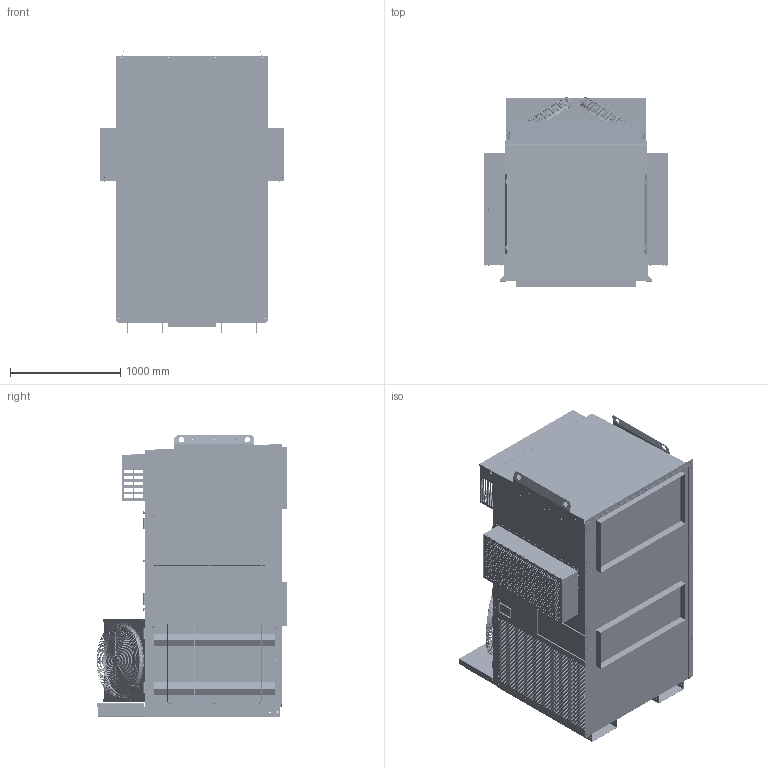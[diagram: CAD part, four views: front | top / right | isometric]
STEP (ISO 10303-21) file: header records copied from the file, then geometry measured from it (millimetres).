
FILE_DESCRIPTION (( 'STEP AP214' ), '1' );
FILE_NAME ('MGA3150A++++C++++2+++B2+++++++, SHELL.STEP', '2022-02-22T16:00:27', ( '' ), ( '' ), 'SwSTEP 2.0', 'SolidWorks 2020', '' );
FILE_SCHEMA (( 'AUTOMOTIVE_DESIGN' ));
Length unit declared in the file: inch
Products named in the file (92): SML45065X; 02146 RH BOTTOM; SML11003X; Southco-E3-19-35_E3_ LOCK - 9; SML12004X; Southco-E3-19-35_E3_STANDARD_METRIC_JAM&NUT_CLF-3; 40255-CLAMP; SML13026X_SML13026X-IN; BLADE^80987; SML13025X; 02146_FLEXIBLE; 90740_THREADS; Southco-E3-19-35_E3_HARDWARE_PACKAGE_SINGLE_HOLE_MOUNDT_CLF(35); Southco-E3-19-35_E3_PAWL_CLF3-2; MD12321; SEAL, LOWER^80987; SML45071X; 40255-MOTOR; SML23007X; BLOCK-OFF, MGA3150A++++C++++2+++B2+++++++^MGA3120 Reverse Flow; MD12319; SML45062X; Southco-E3-19-35_e3_int_tooth_lk_wshr_clf-3; SD12422; SML11001X; MD11715; BLADE PIN^80987; 91039; MD11715_MD11715-SW; MD12320; MD14193; Southco-E3-19-35_e3_housing_clf; SNL23007A; FRAME^80987; BRACKET^40255-CLAMP; MD13590; SML24018X; 93250 PART 3^93250; SML23032X; SML12006X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
Assembly tree (143 placements, depth 6):
  MGA3150A++++C++++2+++B2+++++++, SHELL
    MD09172
    MD09243-IN  x2
      MD09243
    MD11715_MD11715-SW  x2
      MD11715
      MD11716
    MD13588
    MD13590_MD13586
      MD13590
    MD13633
    MD14192  x2
    MD14193  x2
    SML11001X  x2
    SML11003X
    SML11004X
    SML12004X
    SML12005X
    SML12006X
    SML22003X_SML22003X-IN
      SML22003X
    SML23006X
    SML23007X
    SNL23007A
    SML23008X  x2
    SML23014X
    SML23032X
      SML23032X
      91039  x3
        Southco-E3-19-35_E3_HARDWARE_PACKAGE_SINGLE_HOLE_MOUNDT_CLF(35)
          Southco-E3-19-35_Lock Washer-3  x2
          Southco-E3-19-35_E3_STANDARD_METRIC_JAM&NUT_CLF-3  x2
          Southco-E3-19-35_e3_m22_hex_nut_clf-3
          Southco-E3-19-35_e3_int_tooth_lk_wshr_clf-3
          Southco-E3-19-35_E3_PAWL_CLF3-2
        Southco-E3-19-35_lock(95)
          Southco-E3-19-35_E3_ LOCK - 9
        Southco-E3-19-35_e3_housing_clf
        Southco-E3-19-35_E3_SHAFT_CLF
        Southco-E3-19-35_E5-17_Flange_Seal_Gasket
      02146_FLEXIBLE  x2
        02146 RH BOTTOM
        02146 RH TOP
    SML45061X  x2
    SML45062X
    SML45063X
    SML45064X
    SML45065X
    SML45071X
    SML45072X
    02146_FLEXIBLE
      02146 RH BOTTOM
      02146 RH TOP
    02146_FLEXIBLE
      02146 RH BOTTOM
      02146 RH TOP
    93250  x2
      93250 PART 1^93250
      93250 PART 2^93250
      93250 PART 3^93250
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Bounding box: 1667.76 x 1726.57 x 2554.3 mm (x, y, z)
Volume: 3762010292.1 mm3; surface area: 71767228.1 mm2
Topology: 442 solids, 482 shells, 24475 faces, 64039 edges, 40158 vertices
Faces by surface type: plane 11495, cylinder 8327, bspline 2830, cone 1232, torus 555, sphere 36
Entity records: 560082 total; most frequent: CARTESIAN_POINT 150462, ORIENTED_EDGE 72790, DIRECTION 67008, EDGE_CURVE 36420, VERTEX_POINT 23175, VECTOR 22680, LINE 22680, AXIS2_PLACEMENT_3D 22164
